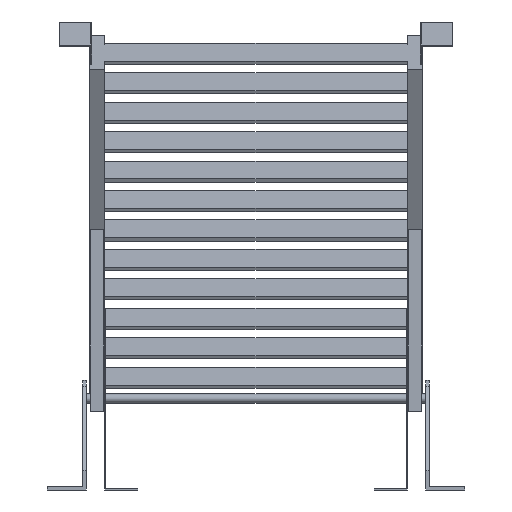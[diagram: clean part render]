
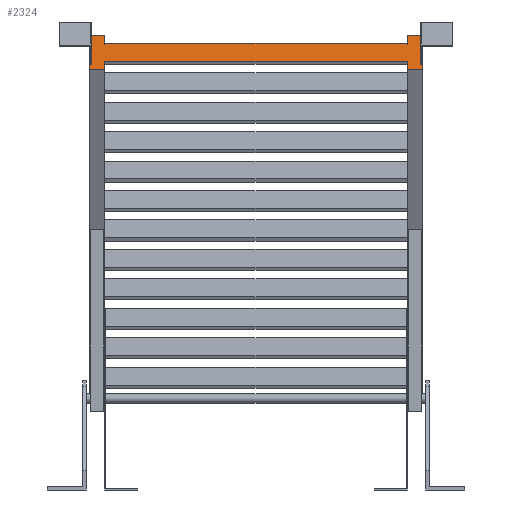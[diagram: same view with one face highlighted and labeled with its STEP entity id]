
A CAD part, front view. The second image highlights one B-rep face of the part: STEP entity #2324.
In plain terms, the highlighted planar face has unit normal (0, -0.985, 0.174).
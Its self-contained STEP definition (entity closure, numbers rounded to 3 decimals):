
#741=DIRECTION('',(1.,0.,0.));
#742=VECTOR('',#741,500.);
#743=CARTESIAN_POINT('',(-250.,-2936.734,707.971));
#744=LINE('',#743,#742);
#749=DIRECTION('',(0.,0.174,0.985));
#750=VECTOR('',#749,13.5);
#751=CARTESIAN_POINT('',(-250.,-2931.525,737.515));
#752=LINE('',#751,#750);
#753=DIRECTION('',(0.,-0.174,-0.985));
#754=VECTOR('',#753,13.5);
#755=CARTESIAN_POINT('',(250.,-2929.18,750.81));
#756=LINE('',#755,#754);
#757=DIRECTION('',(-1.,0.,0.));
#758=VECTOR('',#757,25.);
#759=CARTESIAN_POINT('',(275.,-2929.18,750.81));
#760=LINE('',#759,#758);
#761=DIRECTION('',(0.,0.174,0.985));
#762=VECTOR('',#761,57.);
#763=CARTESIAN_POINT('',(275.,-2939.078,694.676));
#764=LINE('',#763,#762);
#765=DIRECTION('',(1.,0.,0.));
#766=VECTOR('',#765,25.);
#767=CARTESIAN_POINT('',(250.,-2939.078,694.676));
#768=LINE('',#767,#766);
#769=DIRECTION('',(0.,-0.174,-0.985));
#770=VECTOR('',#769,13.5);
#771=CARTESIAN_POINT('',(250.,-2936.734,707.971));
#772=LINE('',#771,#770);
#773=DIRECTION('',(0.,0.174,0.985));
#774=VECTOR('',#773,13.5);
#775=CARTESIAN_POINT('',(-250.,-2939.078,694.676));
#776=LINE('',#775,#774);
#777=DIRECTION('',(1.,0.,0.));
#778=VECTOR('',#777,25.);
#779=CARTESIAN_POINT('',(-275.,-2939.078,694.676));
#780=LINE('',#779,#778);
#781=DIRECTION('',(0.,-0.174,-0.985));
#782=VECTOR('',#781,57.);
#783=CARTESIAN_POINT('',(-275.,-2929.18,750.81));
#784=LINE('',#783,#782);
#785=DIRECTION('',(-1.,0.,0.));
#786=VECTOR('',#785,25.);
#787=CARTESIAN_POINT('',(-250.,-2929.18,750.81));
#788=LINE('',#787,#786);
#789=DIRECTION('',(1.,0.,0.));
#790=VECTOR('',#789,2.);
#791=CARTESIAN_POINT('',(-273.,-2937.602,703.047));
#792=LINE('',#791,#790);
#793=DIRECTION('',(0.,0.174,0.985));
#794=VECTOR('',#793,40.);
#795=CARTESIAN_POINT('',(-271.,-2937.602,703.047));
#796=LINE('',#795,#794);
#797=DIRECTION('',(1.,0.,0.));
#798=VECTOR('',#797,2.);
#799=CARTESIAN_POINT('',(-273.,-2930.657,742.439));
#800=LINE('',#799,#798);
#801=DIRECTION('',(0.,0.174,0.985));
#802=VECTOR('',#801,40.);
#803=CARTESIAN_POINT('',(-273.,-2937.602,703.047));
#804=LINE('',#803,#802);
#805=DIRECTION('',(1.,0.,0.));
#806=VECTOR('',#805,2.);
#807=CARTESIAN_POINT('',(271.,-2937.602,703.047));
#808=LINE('',#807,#806);
#809=DIRECTION('',(0.,0.174,0.985));
#810=VECTOR('',#809,40.);
#811=CARTESIAN_POINT('',(273.,-2937.602,703.047));
#812=LINE('',#811,#810);
#813=DIRECTION('',(1.,0.,0.));
#814=VECTOR('',#813,2.);
#815=CARTESIAN_POINT('',(271.,-2930.657,742.439));
#816=LINE('',#815,#814);
#817=DIRECTION('',(0.,0.174,0.985));
#818=VECTOR('',#817,40.);
#819=CARTESIAN_POINT('',(271.,-2937.602,703.047));
#820=LINE('',#819,#818);
#825=DIRECTION('',(1.,0.,0.));
#826=VECTOR('',#825,500.);
#827=CARTESIAN_POINT('',(-250.,-2931.525,737.515));
#828=LINE('',#827,#826);
#1041=CARTESIAN_POINT('',(-250.,-2929.18,750.81));
#1042=CARTESIAN_POINT('',(-275.,-2929.18,750.81));
#1043=VERTEX_POINT('',#1041);
#1044=VERTEX_POINT('',#1042);
#1045=CARTESIAN_POINT('',(-275.,-2939.078,694.676));
#1046=CARTESIAN_POINT('',(-250.,-2939.078,694.676));
#1047=VERTEX_POINT('',#1045);
#1048=VERTEX_POINT('',#1046);
#1049=CARTESIAN_POINT('',(275.,-2939.078,694.676));
#1050=CARTESIAN_POINT('',(275.,-2929.18,750.81));
#1051=VERTEX_POINT('',#1049);
#1052=VERTEX_POINT('',#1050);
#1053=CARTESIAN_POINT('',(250.,-2939.078,694.676));
#1054=VERTEX_POINT('',#1053);
#1055=CARTESIAN_POINT('',(250.,-2929.18,750.81));
#1056=VERTEX_POINT('',#1055);
#1233=CARTESIAN_POINT('',(-250.,-2936.734,707.971));
#1235=VERTEX_POINT('',#1233);
#1237=CARTESIAN_POINT('',(-250.,-2931.525,737.515));
#1239=VERTEX_POINT('',#1237);
#1241=CARTESIAN_POINT('',(250.,-2936.734,707.971));
#1243=VERTEX_POINT('',#1241);
#1245=CARTESIAN_POINT('',(250.,-2931.525,737.515));
#1247=VERTEX_POINT('',#1245);
#1297=CARTESIAN_POINT('',(-273.,-2937.602,703.047));
#1298=CARTESIAN_POINT('',(-271.,-2937.602,703.047));
#1299=VERTEX_POINT('',#1297);
#1300=VERTEX_POINT('',#1298);
#1301=CARTESIAN_POINT('',(-273.,-2930.657,742.439));
#1302=CARTESIAN_POINT('',(-271.,-2930.657,742.439));
#1303=VERTEX_POINT('',#1301);
#1304=VERTEX_POINT('',#1302);
#1321=CARTESIAN_POINT('',(271.,-2937.602,703.047));
#1322=CARTESIAN_POINT('',(273.,-2937.602,703.047));
#1323=VERTEX_POINT('',#1321);
#1324=VERTEX_POINT('',#1322);
#1325=CARTESIAN_POINT('',(271.,-2930.657,742.439));
#1326=CARTESIAN_POINT('',(273.,-2930.657,742.439));
#1327=VERTEX_POINT('',#1325);
#1328=VERTEX_POINT('',#1326);
#2280=CARTESIAN_POINT('',(0.,-2969.251,523.559));
#2281=DIRECTION('',(0.,0.985,-0.174));
#2282=DIRECTION('',(1.,0.,0.));
#2283=AXIS2_PLACEMENT_3D('',#2280,#2281,#2282);
#2284=PLANE('',#2283);
#2285=ORIENTED_EDGE('',*,*,#1441,.F.);
#2287=ORIENTED_EDGE('',*,*,#2286,.T.);
#2288=ORIENTED_EDGE('',*,*,#1631,.F.);
#2290=ORIENTED_EDGE('',*,*,#2289,.F.);
#2292=ORIENTED_EDGE('',*,*,#2291,.F.);
#2293=ORIENTED_EDGE('',*,*,#1369,.F.);
#2294=ORIENTED_EDGE('',*,*,#1625,.F.);
#2295=ORIENTED_EDGE('',*,*,#2272,.F.);
#2296=ORIENTED_EDGE('',*,*,#1447,.F.);
#2298=ORIENTED_EDGE('',*,*,#2297,.F.);
#2300=ORIENTED_EDGE('',*,*,#2299,.F.);
#2301=ORIENTED_EDGE('',*,*,#1423,.F.);
#2302=EDGE_LOOP('',(#2285,#2287,#2288,#2290,#2292,#2293,#2294,#2295,#2296,#2298,
#2300,#2301));
#2303=FACE_OUTER_BOUND('',#2302,.F.);
#2305=ORIENTED_EDGE('',*,*,#2304,.T.);
#2307=ORIENTED_EDGE('',*,*,#2306,.T.);
#2309=ORIENTED_EDGE('',*,*,#2308,.F.);
#2311=ORIENTED_EDGE('',*,*,#2310,.F.);
#2312=EDGE_LOOP('',(#2305,#2307,#2309,#2311));
#2313=FACE_BOUND('',#2312,.F.);
#2315=ORIENTED_EDGE('',*,*,#2314,.T.);
#2317=ORIENTED_EDGE('',*,*,#2316,.T.);
#2319=ORIENTED_EDGE('',*,*,#2318,.F.);
#2321=ORIENTED_EDGE('',*,*,#2320,.F.);
#2322=EDGE_LOOP('',(#2315,#2317,#2319,#2321));
#2323=FACE_BOUND('',#2322,.F.);
#1369=EDGE_CURVE('',#1054,#1051,#768,.T.);
#1423=EDGE_CURVE('',#1043,#1044,#788,.T.);
#1441=EDGE_CURVE('',#1239,#1043,#752,.T.);
#1447=EDGE_CURVE('',#1048,#1235,#776,.T.);
#1625=EDGE_CURVE('',#1243,#1054,#772,.T.);
#1631=EDGE_CURVE('',#1056,#1247,#756,.T.);
#2272=EDGE_CURVE('',#1235,#1243,#744,.T.);
#2286=EDGE_CURVE('',#1239,#1247,#828,.T.);
#2289=EDGE_CURVE('',#1052,#1056,#760,.T.);
#2291=EDGE_CURVE('',#1051,#1052,#764,.T.);
#2297=EDGE_CURVE('',#1047,#1048,#780,.T.);
#2299=EDGE_CURVE('',#1044,#1047,#784,.T.);
#2304=EDGE_CURVE('',#1299,#1300,#792,.T.);
#2306=EDGE_CURVE('',#1300,#1304,#796,.T.);
#2308=EDGE_CURVE('',#1303,#1304,#800,.T.);
#2310=EDGE_CURVE('',#1299,#1303,#804,.T.);
#2314=EDGE_CURVE('',#1323,#1324,#808,.T.);
#2316=EDGE_CURVE('',#1324,#1328,#812,.T.);
#2318=EDGE_CURVE('',#1327,#1328,#816,.T.);
#2320=EDGE_CURVE('',#1323,#1327,#820,.T.);
#2324=ADVANCED_FACE('',(#2303,#2313,#2323),#2284,.F.);
